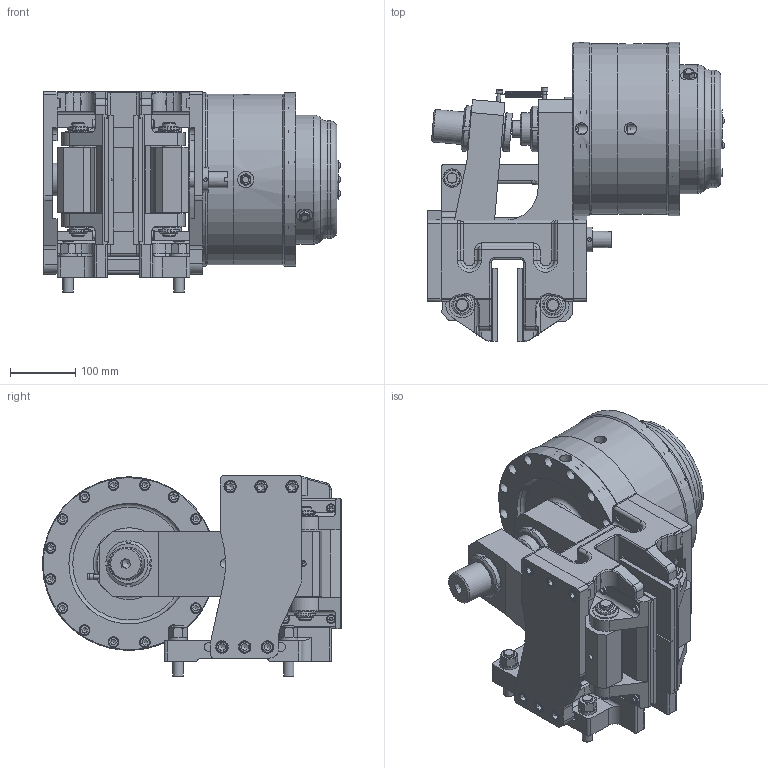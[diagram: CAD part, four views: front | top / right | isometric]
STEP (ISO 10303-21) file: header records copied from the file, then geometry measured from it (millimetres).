
FILE_DESCRIPTION(/* description */ ('','CAx-IF Rec.Pracs.---Representation and Presentation of Product Manufacturing Information (PMI)---4.0---2014-10-13'),/* implementation_level */ '2;1');
FILE_NAME(/* name */ 'X:\INVENTOR\DISEGNI\19_Pinze\STEP x Sito\PNEUM-NEGATIVE\19_36_070_05 PPT-N070_30.stp',/* time_stamp */ '2018-10-26T08:23:02+02:00',/* author */ ('stefano'),/* organization */ (''),/* preprocessor_version */ 'ST-DEVELOPER v17',/* originating_system */ 'Autodesk Inventor 2018',/* authorisation */ '');
FILE_SCHEMA (('AP242_MANAGED_MODEL_BASED_3D_ENGINEERING_MIM_LF { 1 0 10303 442 1 1 4 }'));
Products named in the file (1): 19_36_070_05 PPT-N070_30_Substitute_2
Bounding box: 454.35 x 459 x 308 mm (x, y, z)
Volume: 14897584.9 mm3; surface area: 1658421.3 mm2
Topology: 1 solids, 1 shells, 2121 faces, 5874 edges, 3970 vertices
Faces by surface type: plane 1113, cylinder 551, cone 240, torus 185, bspline 24, sphere 8
Full cylindrical faces by diameter (mm): 1.2 x2, 4.917 x6, 5 x4, 5.25 x4, 6 x2, 6.3 x6, 6.917 x1, 8 x8, 8.376 x17, 8.5 x8, 8.917 x1, 9.188 x1, 9.5 x3, 10 x6, 10.106 x10, 10.5 x16, 10.647 x2, 11.445 x4, 12 x14, 12.5 x12, 13 x9, 13.5 x8, 14 x1, 15 x2, 16 x38, 16.5 x46, 17 x5, 18 x14, 18.631 x2, 19 x12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
Entity records: 78005 total; most frequent: CARTESIAN_POINT 21940, ORIENTED_EDGE 11552, DIRECTION 11476, EDGE_CURVE 5776, AXIS2_PLACEMENT_3D 4469, VERTEX_POINT 3970, EDGE_LOOP 2541, LINE 2538
